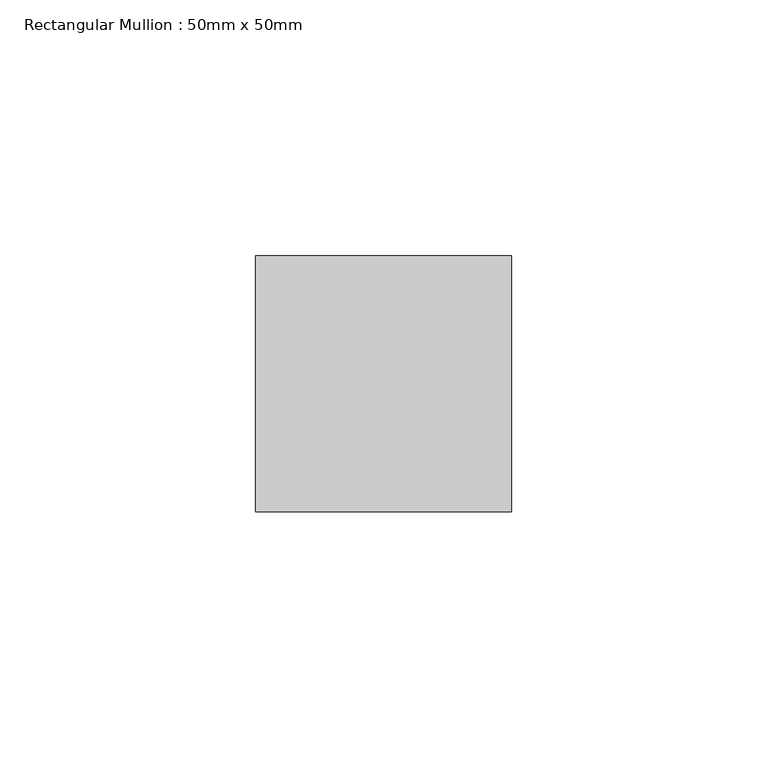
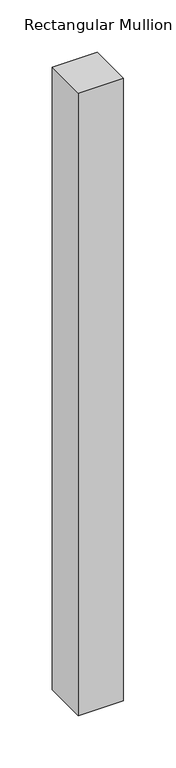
"""IFC4 building model written with IfcOpenShell, lengths in millimetres: member geometry, Rectangular Mullion : 50mm x 50mm."""

from ifc_helpers import new_model, si_unit, frame, origin, place, context, project, spatial, polyline, outline, extrude, source, transform, mapped, element, save


def rectangular_mullion_50mm_x_50mm_13f4722c(model_context):
    return source(origin(), model_context, "Body", "SweptSolid", [
        extrude(outline(polyline([(0.0, 25.0), (0.0, -25.0), (-50.0, -25.0), (-50.0, 25.0), (0.0, 25.0)])), frame((0.0, 0.0, -728.7305194), z_axis=(0.0, 0.0, 1.0), x_axis=(1.0, 0.0, 0.0)), (0.0, 0.0, 1.0), 728.7305194),
    ])


if __name__ == "__main__":
    model = new_model("IFC4")
    model_context = context("Model", 3, world=origin())
    ifc_project = project(units=[si_unit("LENGTHUNIT", "METRE", prefix="MILLI")], contexts=[model_context])
    site = spatial("IfcSite", under=ifc_project)
    building = spatial("IfcBuilding", under=site)
    placement = place(None, origin())
    rectangular_mullion_50mm_x_50mm_shape = rectangular_mullion_50mm_x_50mm_13f4722c(model_context)
    element("IfcMember", 1, ObjectType="Rectangular Mullion : 50mm x 50mm", at=placement, inside=building, context=model_context, shape_type="MappedRepresentation", body=[
        mapped(rectangular_mullion_50mm_x_50mm_shape, transform((0.0, 0.0, 0.0), x_axis=(1.0, 0.0, 0.0), y_axis=(0.0, 1.0, 0.0), z_axis=(0.0, 0.0, 1.0))),
    ])
    save(model, "model.ifc")
